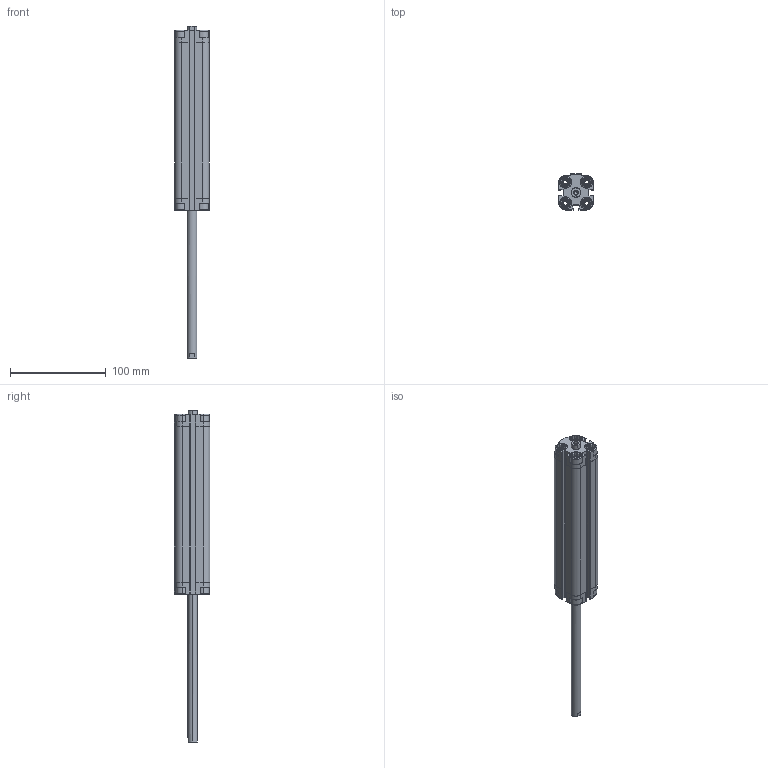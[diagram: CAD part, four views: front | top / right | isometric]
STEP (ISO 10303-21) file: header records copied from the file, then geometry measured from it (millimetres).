
FILE_DESCRIPTION (( 'STEP AP203' ), '1' );
FILE_NAME ('CDVU20-150F-P.STEP', '2020-07-24T18:08:12', ( '' ), ( '' ), 'SwSTEP 2.0', 'SolidWorks 2019', '' );
FILE_SCHEMA (( 'CONFIG_CONTROL_DESIGN' ));
Length unit declared in the file: millimetre
Products named in the file (1): CDVU20-150F-P
Bounding box: 36 x 37.5 x 347 mm (x, y, z)
Volume: 161267.6 mm3; surface area: 78384.5 mm2
Topology: 2 solids, 2 shells, 606 faces, 1598 edges, 1032 vertices
Faces by surface type: plane 358, cylinder 184, cone 48, torus 16
Entity records: 18877 total; most frequent: CARTESIAN_POINT 3805, ORIENTED_EDGE 3180, DIRECTION 3060, EDGE_CURVE 1590, AXIS2_PLACEMENT_3D 1055, VERTEX_POINT 1032, VECTOR 950, LINE 950
